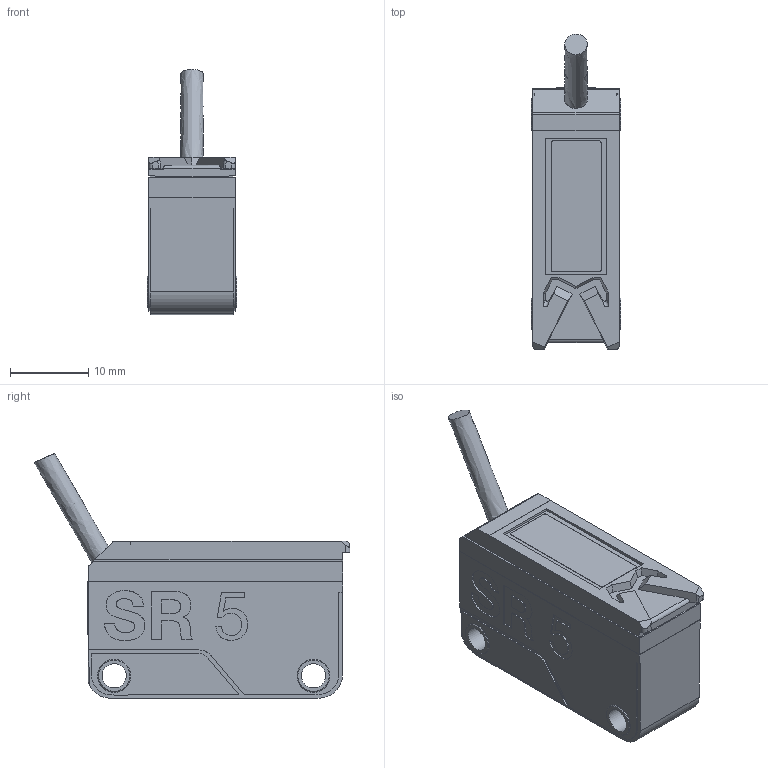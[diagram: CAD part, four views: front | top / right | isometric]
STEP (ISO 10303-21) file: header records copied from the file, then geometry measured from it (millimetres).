
FILE_DESCRIPTION(/* description */ (''),/* implementation_level */ '2;1');
FILE_NAME(/* name */ '3DCAD_BR5B_Cable.stp',/* time_stamp */ '2021-08-27T09:10:29+02:00',/* author */ ('CC2'),/* organization */ ('Leuze electronic'),/* preprocessor_version */ 'ST-DEVELOPER v16',/* originating_system */ 'SIEMENS PLM Software NX 11.0',/* authorisation */ '');
FILE_SCHEMA (('AUTOMOTIVE_DESIGN { 1 0 10303 214 3 1 1 1 }'));
Length unit declared in the file: millimetre
Products named in the file (1): kleh1A288A8Ahjvr
Bounding box: 11.4 x 40.23 x 31.23 mm (x, y, z)
Volume: 6811.2 mm3; surface area: 2959.5 mm2
Topology: 1 solids, 1 shells, 269 faces, 733 edges, 489 vertices
Faces by surface type: plane 170, extrusion 53, cylinder 40, cone 6
Full cylindrical faces by diameter (mm): 3.1 x2, 4.2 x4
Entity records: 10393 total; most frequent: CARTESIAN_POINT 2022, ORIENTED_EDGE 1434, DIRECTION 1192, EDGE_CURVE 717, VECTOR 574, LINE 521, VERTEX_POINT 484, EDGE_LOOP 309
